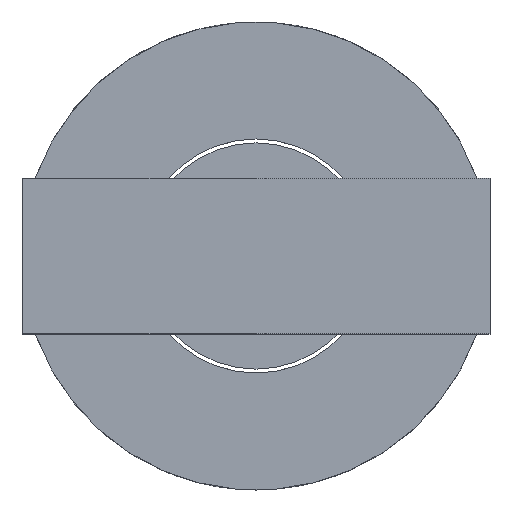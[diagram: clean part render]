
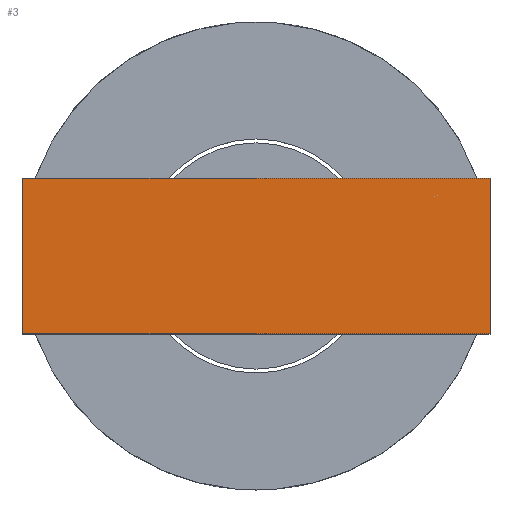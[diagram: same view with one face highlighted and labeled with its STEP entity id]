
A CAD part, left-side view. The second image highlights one B-rep face of the part: STEP entity #3.
In plain terms, the highlighted planar face has unit normal (-1, 0, 0).
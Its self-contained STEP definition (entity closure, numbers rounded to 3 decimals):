
#3 = ADVANCED_FACE ( 'NONE', ( #303 ), #252, .F. ) ;
#27 = ORIENTED_EDGE ( 'NONE', *, *, #291, .T. ) ;
#46 = CARTESIAN_POINT ( 'NONE',  ( -5., 1.5, 1. ) ) ;
#78 = VECTOR ( 'NONE', #129, 1000. ) ;
#94 = VERTEX_POINT ( 'NONE', #198 ) ;
#100 = VERTEX_POINT ( 'NONE', #647 ) ;
#129 = DIRECTION ( 'NONE',  ( 0., 0., 1. ) ) ;
#141 = AXIS2_PLACEMENT_3D ( 'NONE', #781, #540, #919 ) ;
#196 = DIRECTION ( 'NONE',  ( 0., 0., 1. ) ) ;
#198 = CARTESIAN_POINT ( 'NONE',  ( -5., 1.5, -1. ) ) ;
#209 = ORIENTED_EDGE ( 'NONE', *, *, #730, .F. ) ;
#215 = EDGE_LOOP ( 'NONE', ( #662, #367, #209, #27 ) ) ;
#252 = PLANE ( 'NONE',  #141 ) ;
#265 = CARTESIAN_POINT ( 'NONE',  ( -5., 7.5, 1. ) ) ;
#283 = EDGE_CURVE ( 'NONE', #315, #821, #857, .T. ) ;
#291 = EDGE_CURVE ( 'NONE', #100, #94, #643, .T. ) ;
#303 = FACE_OUTER_BOUND ( 'NONE', #215, .T. ) ;
#315 = VERTEX_POINT ( 'NONE', #952 ) ;
#321 = VECTOR ( 'NONE', #788, 1000. ) ;
#367 = ORIENTED_EDGE ( 'NONE', *, *, #283, .F. ) ;
#443 = VECTOR ( 'NONE', #955, 1000. ) ;
#466 = LINE ( 'NONE', #774, #78 ) ;
#489 = CARTESIAN_POINT ( 'NONE',  ( -5., 7.5, -1. ) ) ;
#540 = DIRECTION ( 'NONE',  ( 1., 0., 0. ) ) ;
#560 = EDGE_CURVE ( 'NONE', #94, #821, #568, .T. ) ;
#568 = LINE ( 'NONE', #870, #784 ) ;
#643 = LINE ( 'NONE', #489, #443 ) ;
#647 = CARTESIAN_POINT ( 'NONE',  ( -5., 7.5, -1. ) ) ;
#662 = ORIENTED_EDGE ( 'NONE', *, *, #560, .T. ) ;
#730 = EDGE_CURVE ( 'NONE', #100, #315, #466, .T. ) ;
#774 = CARTESIAN_POINT ( 'NONE',  ( -5., 7.5, -1. ) ) ;
#781 = CARTESIAN_POINT ( 'NONE',  ( -5., 7.5, -1. ) ) ;
#784 = VECTOR ( 'NONE', #196, 1000. ) ;
#788 = DIRECTION ( 'NONE',  ( 0., -1., 0. ) ) ;
#821 = VERTEX_POINT ( 'NONE', #46 ) ;
#857 = LINE ( 'NONE', #265, #321 ) ;
#870 = CARTESIAN_POINT ( 'NONE',  ( -5., 1.5, -1. ) ) ;
#919 = DIRECTION ( 'NONE',  ( 0., 0., -1. ) ) ;
#952 = CARTESIAN_POINT ( 'NONE',  ( -5., 7.5, 1. ) ) ;
#955 = DIRECTION ( 'NONE',  ( 0., -1., 0. ) ) ;
